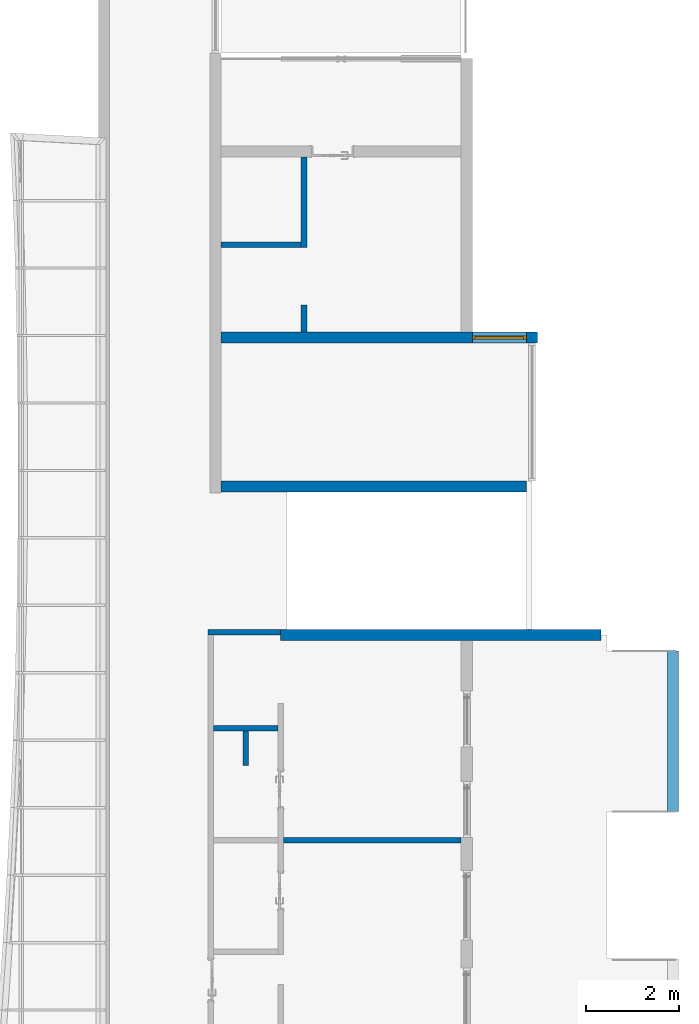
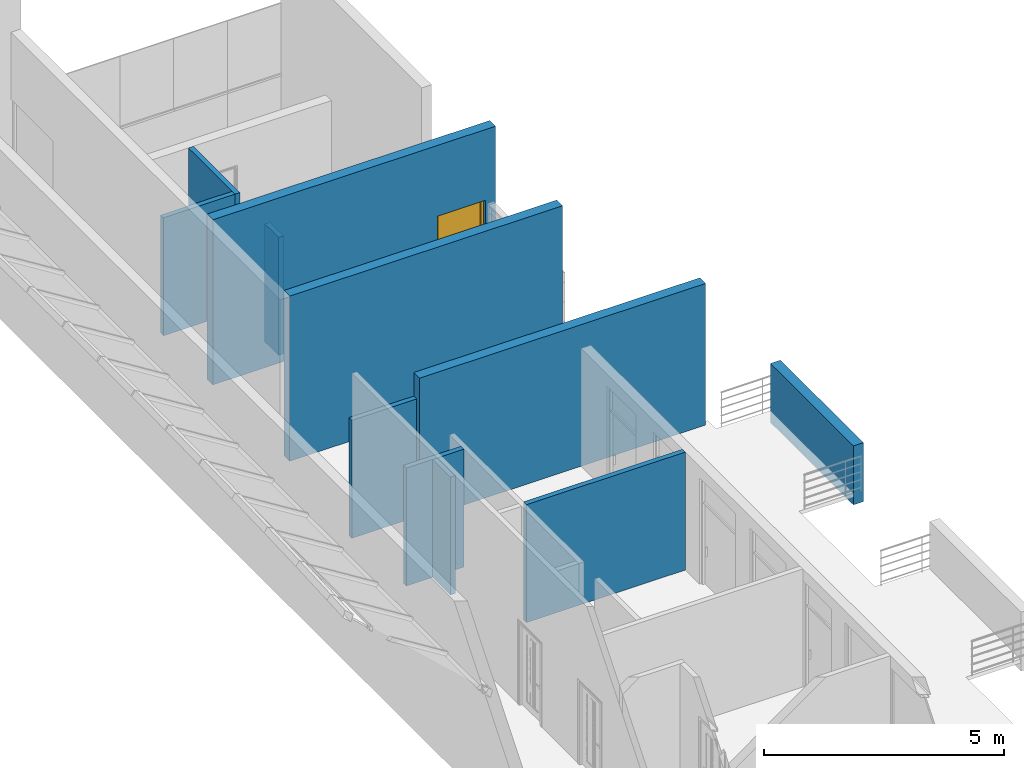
# One storey, part 24 of 33: 11 walls, 1 window, 1 opening.
"""IFC2X3 building model written with IfcOpenShell, lengths in millimetres."""

from ifc_helpers import new_model, entity, si_unit, converted_unit, derived_unit, direction, frame, frame_2d, origin, place, context, subcontext, project, spatial, polyline, rectangle, outline, extrude, source, transform, mapped, material, material_list, layer, layer_set, layer_usage, type_object, type_shapes, element, fill, save


model = new_model("IFC2X3")

# Units and contexts
model_context = context("Model", 3, precision=0.01, world=origin(), true_north=direction((6.12303176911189e-17, 1.0)))
body_context = subcontext(model_context, "Body", "Model", "MODEL_VIEW")
ifc_project = project(units=[si_unit("LENGTHUNIT", "METRE", prefix="MILLI"), si_unit("AREAUNIT", "SQUARE_METRE"), si_unit("VOLUMEUNIT", "CUBIC_METRE"), converted_unit("PLANEANGLEUNIT", "DEGREE", entity("IfcRatioMeasure", 0.0174532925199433), si_unit("PLANEANGLEUNIT", "RADIAN"), dimensions=[0, 0, 0, 0, 0, 0, 0]), si_unit("MASSUNIT", "GRAM", prefix="KILO"), derived_unit("MASSDENSITYUNIT", [(si_unit("MASSUNIT", "GRAM", prefix="KILO"), 1), (si_unit("LENGTHUNIT", "METRE"), -3)]), si_unit("TIMEUNIT", "SECOND"), si_unit("FREQUENCYUNIT", "HERTZ"), si_unit("THERMODYNAMICTEMPERATUREUNIT", "DEGREE_CELSIUS"), derived_unit("THERMALTRANSMITTANCEUNIT", [(si_unit("MASSUNIT", "GRAM", prefix="KILO"), 1), (si_unit("THERMODYNAMICTEMPERATUREUNIT", "KELVIN"), -1), (si_unit("TIMEUNIT", "SECOND"), -3)]), derived_unit("VOLUMETRICFLOWRATEUNIT", [(si_unit("LENGTHUNIT", "METRE"), 3), (si_unit("TIMEUNIT", "SECOND"), -1)]), si_unit("ELECTRICCURRENTUNIT", "AMPERE"), si_unit("ELECTRICVOLTAGEUNIT", "VOLT"), si_unit("POWERUNIT", "WATT"), si_unit("FORCEUNIT", "NEWTON", prefix="KILO"), si_unit("ILLUMINANCEUNIT", "LUX"), si_unit("LUMINOUSFLUXUNIT", "LUMEN"), si_unit("LUMINOUSINTENSITYUNIT", "CANDELA"), derived_unit("USERDEFINED", [(si_unit("MASSUNIT", "GRAM", prefix="KILO"), -1), (si_unit("LENGTHUNIT", "METRE"), -2), (si_unit("TIMEUNIT", "SECOND"), 3), (si_unit("LUMINOUSFLUXUNIT", "LUMEN"), 1)]), derived_unit("LINEARVELOCITYUNIT", [(si_unit("LENGTHUNIT", "METRE"), 1), (si_unit("TIMEUNIT", "SECOND"), -1)]), si_unit("PRESSUREUNIT", "PASCAL"), derived_unit("USERDEFINED", [(si_unit("LENGTHUNIT", "METRE"), -2), (si_unit("MASSUNIT", "GRAM", prefix="KILO"), 1), (si_unit("TIMEUNIT", "SECOND"), -2)])], contexts=[model_context])

# Site, building, storey
site_placement = place(None, origin())
site = spatial("IfcSite", under=ifc_project, at=site_placement, Name="表面", CompositionType="ELEMENT")
building_placement = place(site_placement, origin())
building = spatial("IfcBuilding", under=site, at=building_placement, CompositionType="ELEMENT")
storey_placement = place(building_placement, frame((0.0, 0.0, 6000.0)))
storey = spatial("IfcBuildingStorey", under=building, at=storey_placement, Name="3F", CompositionType="ELEMENT", Elevation=6000.00000000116)

# Wall
ifc_material_1 = material(Name="白色涂料")
ifc_layer_1 = layer(ifc_material_1, 10.0)
ifc_material_2 = material(Name="默认墙")
ifc_layer_2 = layer(ifc_material_2, 220.0)
ifc_layer_3 = layer(ifc_material_1, 10.0)
ifc_layer_set_1 = layer_set([ifc_layer_1, ifc_layer_2, ifc_layer_3], Name="基本墙:粉刷墙240")
ifc_layer_usage_1 = layer_usage(ifc_layer_set_1, "AXIS2", "NEGATIVE", 120.0)
wall_type_1 = type_object("IfcWallType", Name="基本墙:粉刷墙240", PredefinedType="STANDARD", material=ifc_layer_set_1)
wall_1_placement = place(storey_placement, frame((-3750.24991264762, -8707.84591297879, 0.0), z_axis=(0.0, 0.0, 1.0), x_axis=(-1.0, 0.0, 0.0)))
element("IfcWallStandardCase", 1, at=wall_1_placement, inside=storey, type_object=wall_type_1, material=ifc_layer_usage_1, Name="基本墙:粉刷墙240", ObjectType="基本墙:粉刷墙240", context=body_context, shape_type="SweptSolid", body=[
    extrude(rectangle(XDim=6880.0, YDim=240.0, at=frame_2d((3440.0, -1.98951966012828e-13), x_axis=(-1.0, 0.0))), origin(), (0.0, 0.0, 1.0), 3600.0),
])

# Wall, opening, window
ifc_layer_usage_2 = layer_usage(ifc_layer_set_1, "AXIS2", "NEGATIVE", 120.0)
wall_2_placement = place(storey_placement, frame((-11910.2499126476, -2316.86842665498, 0.0)))
wall_2 = element("IfcWallStandardCase", 2, at=wall_2_placement, inside=storey, type_object=wall_type_1, material=ifc_layer_usage_2, Name="基本墙:粉刷墙240", ObjectType="基本墙:粉刷墙240", context=body_context, shape_type="SweptSolid", body=[
    extrude(rectangle(XDim=6800.00000000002, YDim=240.0, at=frame_2d((3400.00000000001, 0.0), x_axis=(-1.0, 0.0))), origin(), (0.0, 0.0, 1.0), 4200.0),
])
opening_placement = place(wall_2_placement, frame((5400.0, -120.0, 100.0)))
opening = element("IfcOpeningElement", 3, at=opening_placement, cuts=wall_2, Name="C0615:C1223:1", ObjectType="Opening", context=body_context, shape_type="SweptSolid", body=[
    extrude(rectangle(XDim=2300.0, YDim=1160.0, at=frame_2d((1150.0, 580.0), x_axis=(1.0, 0.0))), frame((0.0, 0.0, 0.0), z_axis=(0.0, 1.0, 0.0), x_axis=(0.0, 0.0, 1.0)), (0.0, 0.0, 1.0), 240.0),
])
ifc_material_3 = material(Name="竖梃")
ifc_material_4 = material(Name="玻璃")
ifc_material_list_1 = material_list([ifc_material_3, ifc_material_4])
ifc_material_list_2 = material_list([ifc_material_3, ifc_material_4])
window_style = type_object("IfcWindowStyle", Name="C1223", ConstructionType="NOTDEFINED", OperationType="NOTDEFINED", ParameterTakesPrecedence=False, Sizeable=False, material=ifc_material_list_2)
shared_shape = source(origin(), body_context, "Body", "SweptSolid", [
    extrude(outline(polyline([(-1150.0, -580.0), (1150.0, -580.0), (1150.0, 580.0), (-1150.0, 580.0), (-1150.0, -580.0)]), holes=[polyline([(1090.0, -520.0), (-1090.0, -520.0), (-1090.0, 520.0), (1090.0, 520.0), (1090.0, -520.0)])]), frame((580.0, 86.6666666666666, 1150.0), z_axis=(0.0, 1.0, 0.0), x_axis=(0.0, 0.0, -1.0)), (0.0, 0.0, 1.0), 66.6666666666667),
    extrude(rectangle(XDim=27.7162458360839, YDim=1040.0, at=frame_2d((3.5527136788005e-15, 5.6843418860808e-14), x_axis=(1.0, 0.0))), frame((580.0, 142.490721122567, 60.0), z_axis=(0.0, 0.0, 1.0), x_axis=(0.0, 1.0, 0.0)), (0.0, 0.0, 1.0), 2180.0),
])
type_shapes(window_style, [shared_shape])
window_placement = place(opening_placement, origin())
window = element("IfcWindow", 4, at=window_placement, inside=storey, type_object=window_style, material=ifc_material_list_1, Name="C0615:C1223", ObjectType="C1223", OverallHeight=2300.0, OverallWidth=1160.0, context=body_context, shape_type="MappedRepresentation", body=[
    mapped(shared_shape, transform((0.0, 0.0, 0.0), scale=1.0)),
])
fill(opening, window)

# Walls
ifc_layer_usage_3 = layer_usage(ifc_layer_set_1, "AXIS2", "NEGATIVE", 120.0)
wall_3_placement = place(storey_placement, frame((-5350.24991264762, -5516.868426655, 0.0), z_axis=(0.0, 0.0, 1.0), x_axis=(-1.0, 0.0, 0.0)))
element("IfcWallStandardCase", 5, at=wall_3_placement, inside=storey, type_object=wall_type_1, material=ifc_layer_usage_3, Name="基本墙:粉刷墙240", ObjectType="基本墙:粉刷墙240", context=body_context, shape_type="SweptSolid", body=[
    extrude(rectangle(XDim=6560.00000000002, YDim=240.0, at=frame_2d((3280.00000000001, -3.76587649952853e-13), x_axis=(-1.0, 0.0))), origin(), (0.0, 0.0, 1.0), 4200.0),
])
ifc_layer_usage_4 = layer_usage(ifc_layer_set_1, "AXIS2", "NEGATIVE", 120.0)
wall_4_placement = place(storey_placement, frame((-2200.24991264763, -12507.8459129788, -300.0), z_axis=(0.0, 0.0, 1.0), x_axis=(0.0, 1.0, 0.0)))
element("IfcWallStandardCase", 6, at=wall_4_placement, inside=storey, type_object=wall_type_1, material=ifc_layer_usage_4, Name="基本墙:粉刷墙240", ObjectType="基本墙:粉刷墙240", context=body_context, shape_type="SweptSolid", body=[
    extrude(rectangle(XDim=3460.00000000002, YDim=240.0, at=frame_2d((1730.00000000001, 0.0), x_axis=(-1.0, 0.0))), origin(), (0.0, 0.0, 1.0), 1500.0),
])
ifc_layer_4 = layer(ifc_material_1, 10.0)
ifc_layer_5 = layer(ifc_material_2, 100.0)
ifc_layer_6 = layer(ifc_material_1, 10.0)
ifc_layer_set_2 = layer_set([ifc_layer_4, ifc_layer_5, ifc_layer_6], Name="基本墙:粉刷墙120")
ifc_layer_usage_5 = layer_usage(ifc_layer_set_2, "AXIS2", "NEGATIVE", 60.0)
wall_type_2 = type_object("IfcWallType", Name="基本墙:粉刷墙120", PredefinedType="STANDARD", material=ifc_layer_set_2)
wall_5_placement = place(storey_placement, frame((-10130.2499126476, 1563.13157334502, 0.0), z_axis=(0.0, 0.0, 1.0), x_axis=(0.0, -1.0, 0.0)))
element("IfcWallStandardCase", 7, at=wall_5_placement, inside=storey, type_object=wall_type_2, material=ifc_layer_usage_5, Name="基本墙:粉刷墙120", ObjectType="基本墙:粉刷墙120", context=body_context, shape_type="SweptSolid", body=[
    extrude(rectangle(XDim=1940.0, YDim=119.999999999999, at=frame_2d((970.0, -3.19744231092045e-14), x_axis=(-1.0, 0.0))), origin(), (0.0, 0.0, 1.0), 3000.0),
])
ifc_layer_usage_6 = layer_usage(ifc_layer_set_2, "AXIS2", "NEGATIVE", 60.0)
wall_6_placement = place(storey_placement, frame((-10190.2499126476, -316.868426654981, 0.0), z_axis=(0.0, 0.0, 1.0), x_axis=(-1.0, 0.0, 0.0)))
element("IfcWallStandardCase", 8, at=wall_6_placement, inside=storey, type_object=wall_type_2, material=ifc_layer_usage_6, Name="基本墙:粉刷墙120", ObjectType="基本墙:粉刷墙120", context=body_context, shape_type="SweptSolid", body=[
    extrude(rectangle(XDim=1720.0, YDim=120.0, at=frame_2d((860.0, 2.8421709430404e-14), x_axis=(-1.0, 0.0))), origin(), (0.0, 0.0, 1.0), 3000.0),
])
ifc_layer_usage_7 = layer_usage(ifc_layer_set_2, "AXIS2", "NEGATIVE", 60.0)
wall_7_placement = place(storey_placement, frame((-10130.2499126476, -2196.86842665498, 0.0), z_axis=(0.0, 0.0, 1.0), x_axis=(0.0, 1.0, 0.0)))
element("IfcWallStandardCase", 9, at=wall_7_placement, inside=storey, type_object=wall_type_2, material=ifc_layer_usage_7, Name="基本墙:粉刷墙120", ObjectType="基本墙:粉刷墙120", context=body_context, shape_type="SweptSolid", body=[
    extrude(rectangle(XDim=580.0, YDim=119.999999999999, at=frame_2d((290.0, -1.70530256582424e-13), x_axis=(-1.0, 0.0))), origin(), (0.0, 0.0, 1.0), 3000.0),
])
ifc_layer_usage_8 = layer_usage(ifc_layer_set_2, "AXIS2", "NEGATIVE", 60.0)
wall_8_placement = place(storey_placement, frame((-10630.2499126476, -8647.84591297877, 0.0), z_axis=(0.0, 0.0, 1.0), x_axis=(-1.0, 0.0, 0.0)))
element("IfcWallStandardCase", 10, at=wall_8_placement, inside=storey, type_object=wall_type_2, material=ifc_layer_usage_8, Name="基本墙:粉刷墙120", ObjectType="基本墙:粉刷墙120", context=body_context, shape_type="SweptSolid", body=[
    extrude(rectangle(XDim=1560.0, YDim=120.000000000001, at=frame_2d((780.000000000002, 8.17124146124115e-14), x_axis=(-1.0, 0.0))), origin(), (0.0, 0.0, 1.0), 3000.0),
])
ifc_layer_usage_9 = layer_usage(ifc_layer_set_2, "AXIS2", "NEGATIVE", 60.0)
wall_9_placement = place(storey_placement, frame((-12070.2499126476, -10716.868426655, 0.0)))
element("IfcWallStandardCase", 11, at=wall_9_placement, inside=storey, type_object=wall_type_2, material=ifc_layer_usage_9, Name="基本墙:粉刷墙120", ObjectType="基本墙:粉刷墙120", context=body_context, shape_type="SweptSolid", body=[
    extrude(rectangle(XDim=1380.00000000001, YDim=119.999999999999, at=frame_2d((690.000000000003, -1.74082970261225e-13), x_axis=(-1.0, 0.0))), origin(), (0.0, 0.0, 1.0), 3000.0),
])
ifc_layer_usage_10 = layer_usage(ifc_layer_set_2, "AXIS2", "NEGATIVE", 60.0)
wall_10_placement = place(storey_placement, frame((-11380.2499126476, -10776.868426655, 0.0), z_axis=(0.0, 0.0, 1.0), x_axis=(0.0, -1.0, 0.0)))
element("IfcWallStandardCase", 12, at=wall_10_placement, inside=storey, type_object=wall_type_2, material=ifc_layer_usage_10, Name="基本墙:粉刷墙120", ObjectType="基本墙:粉刷墙120", context=body_context, shape_type="SweptSolid", body=[
    extrude(rectangle(XDim=739.999999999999, YDim=119.999999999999, at=frame_2d((369.999999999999, 0.0), x_axis=(-1.0, 0.0))), origin(), (0.0, 0.0, 1.0), 3000.0),
])
ifc_layer_usage_11 = layer_usage(ifc_layer_set_2, "AXIS2", "NEGATIVE", 60.0)
wall_11_placement = place(storey_placement, frame((-10570.2499126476, -13116.868426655, 0.0)))
element("IfcWallStandardCase", 13, at=wall_11_placement, inside=storey, type_object=wall_type_2, material=ifc_layer_usage_11, Name="基本墙:粉刷墙120", ObjectType="基本墙:粉刷墙120", context=body_context, shape_type="SweptSolid", body=[
    extrude(rectangle(XDim=3820.0, YDim=119.999999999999, at=frame_2d((1910.0, -2.91322521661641e-13), x_axis=(-1.0, 0.0))), origin(), (0.0, 0.0, 1.0), 3000.0),
])

save(model, "model.ifc")
